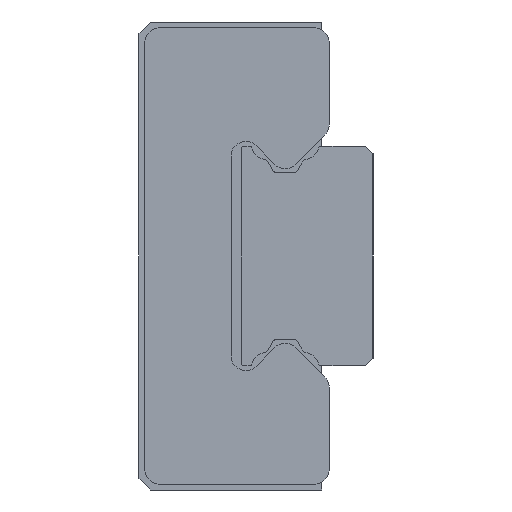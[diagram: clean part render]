
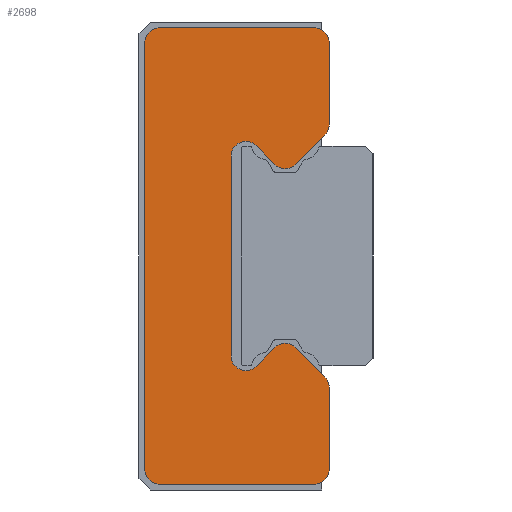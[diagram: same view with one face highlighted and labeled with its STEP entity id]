
A CAD part, left-side view. The second image highlights one B-rep face of the part: STEP entity #2698.
In plain terms, the highlighted planar face has unit normal (-1, 0, 0).
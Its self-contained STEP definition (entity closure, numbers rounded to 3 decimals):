
#114=PLANE('',#3007);
#323=LINE('',#4541,#559);
#326=LINE('',#4549,#562);
#329=LINE('',#4557,#565);
#332=LINE('',#4565,#568);
#335=LINE('',#4573,#571);
#338=LINE('',#4581,#574);
#341=LINE('',#4589,#577);
#344=LINE('',#4597,#580);
#347=LINE('',#4605,#583);
#350=LINE('',#4613,#586);
#559=VECTOR('',#3724,1000.);
#562=VECTOR('',#3733,1000.);
#565=VECTOR('',#3742,1000.);
#568=VECTOR('',#3751,1000.);
#571=VECTOR('',#3760,1000.);
#574=VECTOR('',#3769,1000.);
#577=VECTOR('',#3778,1000.);
#580=VECTOR('',#3787,1000.);
#583=VECTOR('',#3796,1000.);
#586=VECTOR('',#3805,1000.);
#1301=ORIENTED_EDGE('',*,*,#1678,.F.);
#1302=ORIENTED_EDGE('',*,*,#1716,.F.);
#1303=ORIENTED_EDGE('',*,*,#1714,.F.);
#1304=ORIENTED_EDGE('',*,*,#1712,.F.);
#1305=ORIENTED_EDGE('',*,*,#1710,.F.);
#1306=ORIENTED_EDGE('',*,*,#1708,.F.);
#1307=ORIENTED_EDGE('',*,*,#1706,.F.);
#1308=ORIENTED_EDGE('',*,*,#1704,.F.);
#1309=ORIENTED_EDGE('',*,*,#1702,.F.);
#1310=ORIENTED_EDGE('',*,*,#1700,.F.);
#1311=ORIENTED_EDGE('',*,*,#1698,.T.);
#1312=ORIENTED_EDGE('',*,*,#1696,.F.);
#1313=ORIENTED_EDGE('',*,*,#1694,.T.);
#1314=ORIENTED_EDGE('',*,*,#1692,.F.);
#1315=ORIENTED_EDGE('',*,*,#1690,.F.);
#1316=ORIENTED_EDGE('',*,*,#1688,.F.);
#1317=ORIENTED_EDGE('',*,*,#1686,.F.);
#1318=ORIENTED_EDGE('',*,*,#1684,.F.);
#1319=ORIENTED_EDGE('',*,*,#1682,.F.);
#1320=ORIENTED_EDGE('',*,*,#1680,.F.);
#1678=EDGE_CURVE('',#1957,#1958,#2115,.T.);
#1680=EDGE_CURVE('',#1958,#1959,#323,.T.);
#1682=EDGE_CURVE('',#1959,#1960,#2116,.T.);
#1684=EDGE_CURVE('',#1960,#1961,#326,.T.);
#1686=EDGE_CURVE('',#1961,#1962,#2117,.T.);
#1688=EDGE_CURVE('',#1962,#1963,#329,.T.);
#1690=EDGE_CURVE('',#1963,#1964,#2118,.T.);
#1692=EDGE_CURVE('',#1964,#1965,#332,.T.);
#1694=EDGE_CURVE('',#1966,#1965,#2119,.T.);
#1696=EDGE_CURVE('',#1966,#1967,#335,.T.);
#1698=EDGE_CURVE('',#1968,#1967,#2120,.T.);
#1700=EDGE_CURVE('',#1968,#1969,#338,.T.);
#1702=EDGE_CURVE('',#1969,#1970,#2121,.T.);
#1704=EDGE_CURVE('',#1970,#1971,#341,.T.);
#1706=EDGE_CURVE('',#1971,#1972,#2122,.T.);
#1708=EDGE_CURVE('',#1972,#1973,#344,.T.);
#1710=EDGE_CURVE('',#1973,#1974,#2123,.T.);
#1712=EDGE_CURVE('',#1974,#1975,#347,.T.);
#1714=EDGE_CURVE('',#1975,#1976,#2124,.T.);
#1716=EDGE_CURVE('',#1976,#1957,#350,.T.);
#1957=VERTEX_POINT('',#4536);
#1958=VERTEX_POINT('',#4538);
#1959=VERTEX_POINT('',#4542);
#1960=VERTEX_POINT('',#4546);
#1961=VERTEX_POINT('',#4550);
#1962=VERTEX_POINT('',#4554);
#1963=VERTEX_POINT('',#4558);
#1964=VERTEX_POINT('',#4562);
#1965=VERTEX_POINT('',#4566);
#1966=VERTEX_POINT('',#4570);
#1967=VERTEX_POINT('',#4574);
#1968=VERTEX_POINT('',#4578);
#1969=VERTEX_POINT('',#4582);
#1970=VERTEX_POINT('',#4586);
#1971=VERTEX_POINT('',#4590);
#1972=VERTEX_POINT('',#4594);
#1973=VERTEX_POINT('',#4598);
#1974=VERTEX_POINT('',#4602);
#1975=VERTEX_POINT('',#4606);
#1976=VERTEX_POINT('',#4610);
#2115=CIRCLE('',#2978,1.);
#2116=CIRCLE('',#2981,1.);
#2117=CIRCLE('',#2984,1.);
#2118=CIRCLE('',#2987,1.);
#2119=CIRCLE('',#2990,1.);
#2120=CIRCLE('',#2993,1.);
#2121=CIRCLE('',#2996,1.);
#2122=CIRCLE('',#2999,1.);
#2123=CIRCLE('',#3002,1.);
#2124=CIRCLE('',#3005,1.);
#2288=EDGE_LOOP('',(#1301,#1302,#1303,#1304,#1305,#1306,#1307,#1308,#1309,
#1310,#1311,#1312,#1313,#1314,#1315,#1316,#1317,#1318,#1319,#1320));
#2468=FACE_BOUND('',#2288,.T.);
#2698=ADVANCED_FACE('',(#2468),#114,.F.);
#2978=AXIS2_PLACEMENT_3D('',#4537,#3719,#3720);
#2981=AXIS2_PLACEMENT_3D('',#4545,#3728,#3729);
#2984=AXIS2_PLACEMENT_3D('',#4553,#3737,#3738);
#2987=AXIS2_PLACEMENT_3D('',#4561,#3746,#3747);
#2990=AXIS2_PLACEMENT_3D('',#4569,#3755,#3756);
#2993=AXIS2_PLACEMENT_3D('',#4577,#3764,#3765);
#2996=AXIS2_PLACEMENT_3D('',#4585,#3773,#3774);
#2999=AXIS2_PLACEMENT_3D('',#4593,#3782,#3783);
#3002=AXIS2_PLACEMENT_3D('',#4601,#3791,#3792);
#3005=AXIS2_PLACEMENT_3D('',#4609,#3800,#3801);
#3007=AXIS2_PLACEMENT_3D('',#4614,#3806,#3807);
#3719=DIRECTION('',(1.,0.,0.));
#3720=DIRECTION('',(0.,0.,-1.));
#3724=DIRECTION('',(0.,-1.,0.));
#3728=DIRECTION('',(1.,0.,0.));
#3729=DIRECTION('',(0.,0.,-1.));
#3733=DIRECTION('',(0.,0.,-1.));
#3737=DIRECTION('',(1.,0.,0.));
#3738=DIRECTION('',(0.,0.,-1.));
#3742=DIRECTION('',(0.,0.707,-0.707));
#3746=DIRECTION('',(1.,0.,0.));
#3747=DIRECTION('',(0.,0.,-1.));
#3751=DIRECTION('',(0.,0.707,0.707));
#3755=DIRECTION('',(1.,0.,0.));
#3756=DIRECTION('',(0.,0.,-1.));
#3760=DIRECTION('',(0.,0.,-1.));
#3764=DIRECTION('',(1.,0.,0.));
#3765=DIRECTION('',(0.,0.,-1.));
#3769=DIRECTION('',(0.,-0.707,0.707));
#3773=DIRECTION('',(1.,0.,0.));
#3774=DIRECTION('',(0.,0.,-1.));
#3778=DIRECTION('',(0.,-0.707,-0.707));
#3782=DIRECTION('',(1.,0.,0.));
#3783=DIRECTION('',(0.,0.,-1.));
#3787=DIRECTION('',(0.,0.,-1.));
#3791=DIRECTION('',(1.,0.,0.));
#3792=DIRECTION('',(0.,0.,-1.));
#3796=DIRECTION('',(0.,1.,0.));
#3800=DIRECTION('',(1.,0.,0.));
#3801=DIRECTION('',(0.,0.,-1.));
#3805=DIRECTION('',(0.,0.,1.));
#3806=DIRECTION('',(1.,0.,0.));
#3807=DIRECTION('',(0.,0.,-1.));
#4536=CARTESIAN_POINT('',(-28.25,-0.4,14.6));
#4537=CARTESIAN_POINT('',(-28.25,-1.4,14.6));
#4538=CARTESIAN_POINT('',(-28.25,-1.4,15.6));
#4541=CARTESIAN_POINT('',(-28.25,-1.4,15.6));
#4542=CARTESIAN_POINT('',(-28.25,-12.,15.6));
#4545=CARTESIAN_POINT('',(-28.25,-12.,14.6));
#4546=CARTESIAN_POINT('',(-28.25,-13.,14.6));
#4549=CARTESIAN_POINT('',(-28.25,-13.,14.6));
#4550=CARTESIAN_POINT('',(-28.25,-13.,8.964));
#4553=CARTESIAN_POINT('',(-28.25,-12.,8.964));
#4554=CARTESIAN_POINT('',(-28.25,-12.707,8.257));
#4557=CARTESIAN_POINT('',(-28.25,-12.707,8.257));
#4558=CARTESIAN_POINT('',(-28.25,-10.707,6.257));
#4561=CARTESIAN_POINT('',(-28.25,-10.,6.964));
#4562=CARTESIAN_POINT('',(-28.25,-9.293,6.257));
#4565=CARTESIAN_POINT('',(-28.25,-9.293,6.257));
#4566=CARTESIAN_POINT('',(-28.25,-8.007,7.543));
#4569=CARTESIAN_POINT('',(-28.25,-7.3,6.836));
#4570=CARTESIAN_POINT('',(-28.25,-6.3,6.836));
#4573=CARTESIAN_POINT('',(-28.25,-6.3,6.836));
#4574=CARTESIAN_POINT('',(-28.25,-6.3,-6.836));
#4577=CARTESIAN_POINT('',(-28.25,-7.3,-6.836));
#4578=CARTESIAN_POINT('',(-28.25,-8.007,-7.543));
#4581=CARTESIAN_POINT('',(-28.25,-8.007,-7.543));
#4582=CARTESIAN_POINT('',(-28.25,-9.293,-6.257));
#4585=CARTESIAN_POINT('',(-28.25,-10.,-6.964));
#4586=CARTESIAN_POINT('',(-28.25,-10.707,-6.257));
#4589=CARTESIAN_POINT('',(-28.25,-10.707,-6.257));
#4590=CARTESIAN_POINT('',(-28.25,-12.707,-8.257));
#4593=CARTESIAN_POINT('',(-28.25,-12.,-8.964));
#4594=CARTESIAN_POINT('',(-28.25,-13.,-8.964));
#4597=CARTESIAN_POINT('',(-28.25,-13.,-8.964));
#4598=CARTESIAN_POINT('',(-28.25,-13.,-14.6));
#4601=CARTESIAN_POINT('',(-28.25,-12.,-14.6));
#4602=CARTESIAN_POINT('',(-28.25,-12.,-15.6));
#4605=CARTESIAN_POINT('',(-28.25,-12.,-15.6));
#4606=CARTESIAN_POINT('',(-28.25,-1.4,-15.6));
#4609=CARTESIAN_POINT('',(-28.25,-1.4,-14.6));
#4610=CARTESIAN_POINT('',(-28.25,-0.4,-14.6));
#4613=CARTESIAN_POINT('',(-28.25,-0.4,-14.6));
#4614=CARTESIAN_POINT('',(-28.25,-1.4,14.6));
